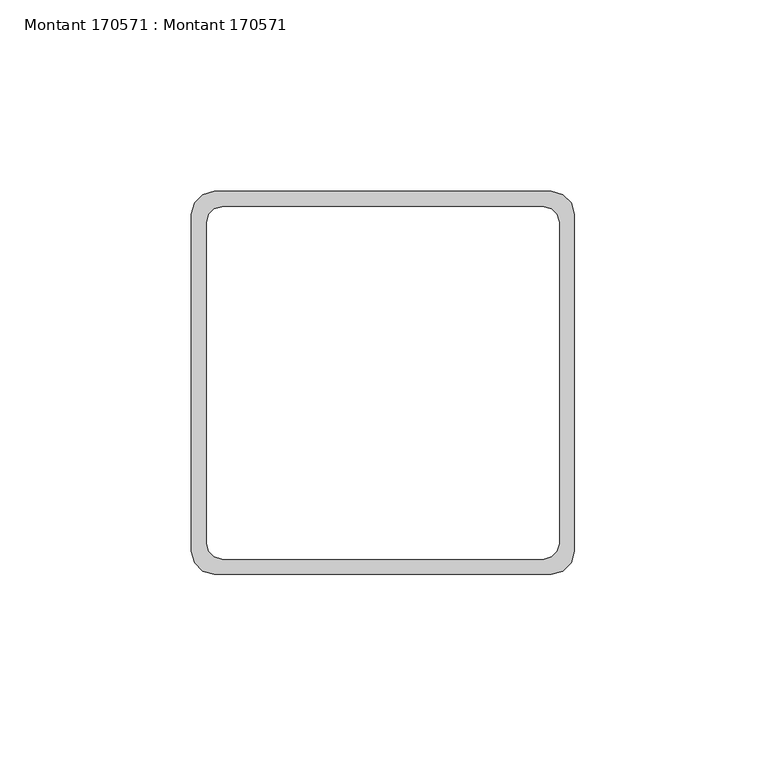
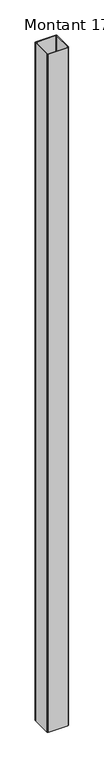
"""IFC4 building model written with IfcOpenShell, lengths in millimetres: beam geometry, Montant 170571 : Montant 170571."""

from ifc_helpers import new_model, si_unit, frame, origin, place, context, project, spatial, polyline, outline, extrude, source, transform, mapped, element, save


def montant_170571_montant_170571_7c06ff10(model_context):
    return source(origin(), model_context, "Body", "SweptSolid", [
        extrude(outline(polyline([(425.9999999, -12733.5), (422.9999999, -12732.6961524), (420.8038474, -12730.5), (419.9999999, -12727.5), (419.9999999, -12639.5), (420.8038474, -12636.5), (422.9999999, -12634.3038476), (425.9999999, -12633.5), (513.9999999, -12633.5), (516.9999999, -12634.3038476), (519.1961523, -12636.5), (519.9999999, -12639.5), (519.9999999, -12727.5), (519.1961523, -12730.5), (516.9999999, -12732.6961524), (513.9999999, -12733.5), (425.9999999, -12733.5)]), holes=[polyline([(511.9999999, -12729.5), (513.9999999, -12728.9641016), (515.4641015, -12727.5), (515.9999999, -12725.5), (515.9999999, -12641.5), (515.4641015, -12639.5), (513.9999999, -12638.0358984), (511.9999999, -12637.5), (427.9999999, -12637.5), (425.9999999, -12638.0358984), (424.5358983, -12639.5), (423.9999999, -12641.5), (423.9999999, -12725.5), (424.5358983, -12727.5), (425.9999999, -12728.9641016), (427.9999999, -12729.5), (511.9999999, -12729.5)])]), frame((0.0, 0.0, 8550.0), z_axis=(0.0, 0.0, 1.0), x_axis=(1.0, 0.0, 0.0)), (0.0, 0.0, 1.0), 3270.0),
    ])


if __name__ == "__main__":
    model = new_model("IFC4")
    model_context = context("Model", 3, world=origin())
    ifc_project = project(units=[si_unit("LENGTHUNIT", "METRE", prefix="MILLI")], contexts=[model_context])
    site = spatial("IfcSite", under=ifc_project)
    building = spatial("IfcBuilding", under=site)
    placement = place(None, origin())
    montant_170571_montant_170571_shape = montant_170571_montant_170571_7c06ff10(model_context)
    element("IfcBeam", 1, ObjectType="Montant 170571 : Montant 170571", at=placement, inside=building, context=model_context, shape_type="MappedRepresentation", body=[
        mapped(montant_170571_montant_170571_shape, transform((0.0, 0.0, 0.0), x_axis=(1.0, 0.0, 0.0), y_axis=(0.0, 1.0, 0.0), z_axis=(0.0, 0.0, 1.0))),
    ])
    save(model, "model.ifc")
